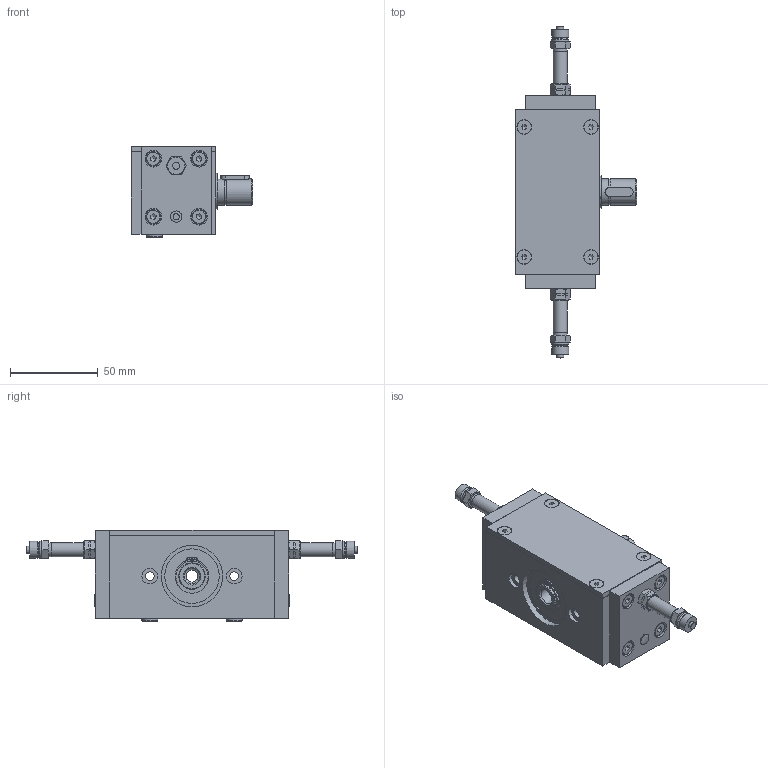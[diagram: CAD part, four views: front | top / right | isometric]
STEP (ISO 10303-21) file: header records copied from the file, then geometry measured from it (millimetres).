
FILE_DESCRIPTION(/* description */ ('DA 16'),/* implementation_level */ '2;1');
FILE_NAME(/* name */ 'C:\BC-WorkSpace\UL\M-Heldap01,D-AM_Held\Elemente\2 Inventor\Drehantriebe\DA 16\Alt\230-40-09-000_2000005kat2023.stp',/* time_stamp */ '2024-09-12T12:24:40+02:00',/* author */ ('ul'),/* organization */ (''),/* preprocessor_version */ 'ST-DEVELOPER v17',/* originating_system */ 'Autodesk Inventor 2018',/* authorisation */ '');
FILE_SCHEMA (('AUTOMOTIVE_DESIGN { 1 0 10303 214 3 1 1 }'));
Products named in the file (2): 230.40.09.000; 230-40-09-000_Substitute_2
Assembly tree (1 placements, depth 2):
  230.40.09.000
    230-40-09-000_Substitute_2
Bounding box: 69 x 189 x 51.9 mm (x, y, z)
Volume: 207880.6 mm3; surface area: 56170.8 mm2
Topology: 1 solids, 1 shells, 1661 faces, 4812 edges, 3217 vertices
Faces by surface type: plane 1444, cylinder 149, cone 52, torus 14, sphere 2
Full cylindrical faces by diameter (mm): 1.7 x4, 2 x2, 2.2 x2, 3.5 x2, 4 x4, 4.134 x2, 4.917 x4, 5.5 x2, 6.1 x2, 6.5 x4, 6.8 x1, 7.8 x2, 8 x9, 8.3 x4, 8.5 x8, 9 x5, 9.5 x8, 9.7 x4, 10.5 x2, 14.3 x2, 15 x7, 16 x1, 16.6 x2, 19 x6, 20.5 x1, 31 x4, 35 x2
Entity records: 57474 total; most frequent: CARTESIAN_POINT 14450, ORIENTED_EDGE 9596, DIRECTION 7201, EDGE_CURVE 4798, VERTEX_POINT 3217, LINE 2685, VECTOR 2685, AXIS2_PLACEMENT_3D 2258
